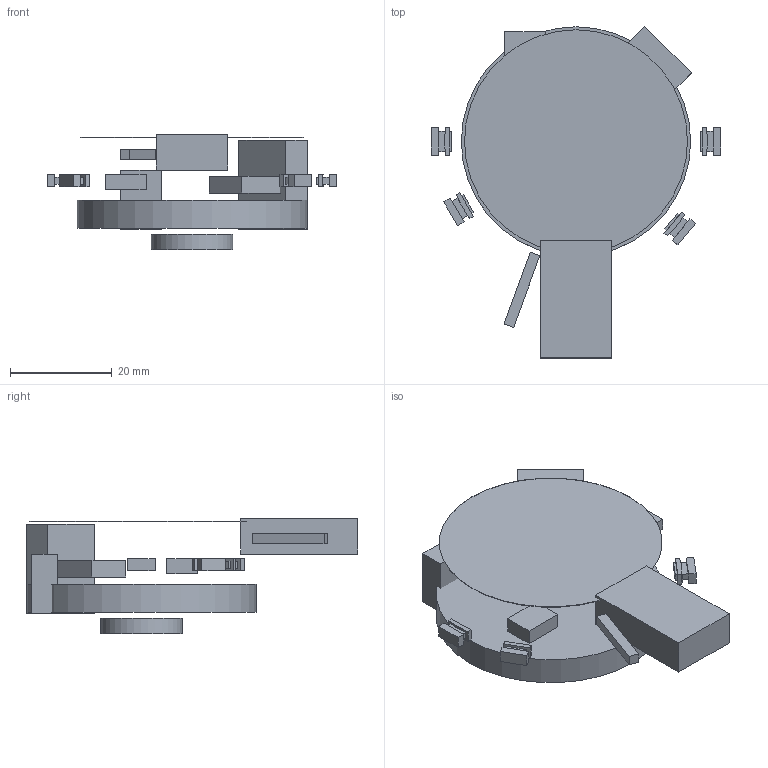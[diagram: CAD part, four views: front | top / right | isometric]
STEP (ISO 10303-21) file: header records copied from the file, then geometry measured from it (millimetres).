
FILE_DESCRIPTION(('Open CASCADE Model'),'2;1');
FILE_NAME('Open CASCADE Shape Model','2026-10-18T23:08:38',('Author'),( 'Open CASCADE'),'Open CASCADE STEP processor 7.9','Open CASCADE 7.9' ,'Unknown');
FILE_SCHEMA(('AUTOMOTIVE_DESIGN { 1 0 10303 214 1 1 1 1 }'));
Length unit declared in the file: millimetre
Products named in the file (14): UNREGISTERED_KEEPOUTS_NOT_COMPONENTS; KO_key_1_swept; KO_key_2_swept; KO_key_3_swept; KO_key_4_swept; KO_LRA_flex; KO_battery_installed; REF_visible_display_43_76; KO_FPC_route_UNREGISTERED; KO_RF_sector_UNREGISTERED; KO_USB_plug_UNREGISTERED; KO_reset_tool_UNREGISTERED; KO_protection_leads_UNSELECTED; KO_HR_UNALLOCATED_EXTERNAL_ONLY
Assembly tree (13 placements, depth 2):
  UNREGISTERED_KEEPOUTS_NOT_COMPONENTS
    KO_key_1_swept
    KO_key_2_swept
    KO_key_3_swept
    KO_key_4_swept
    KO_LRA_flex
    KO_battery_installed
    REF_visible_display_43_76
    KO_FPC_route_UNREGISTERED
    KO_RF_sector_UNREGISTERED
    KO_USB_plug_UNREGISTERED
    KO_reset_tool_UNREGISTERED
    KO_protection_leads_UNSELECTED
    KO_HR_UNALLOCATED_EXTERNAL_ONLY
Bounding box: 56.8 x 65.13 x 22.6 mm (x, y, z)
Volume: 14380 mm3; surface area: 11002.9 mm2
Topology: 13 solids, 13 shells, 129 faces, 273 edges, 182 vertices
Faces by surface type: plane 122, cylinder 7
Full cylindrical faces by diameter (mm): 16 x1, 43.76 x1, 45 x1
Entity records: 7330 total; most frequent: CARTESIAN_POINT 1258, DIRECTION 1088, LINE 751, VECTOR 751, ORIENTED_EDGE 546, PCURVE 546, DEFINITIONAL_REPRESENTATION 546, EDGE_CURVE 273
